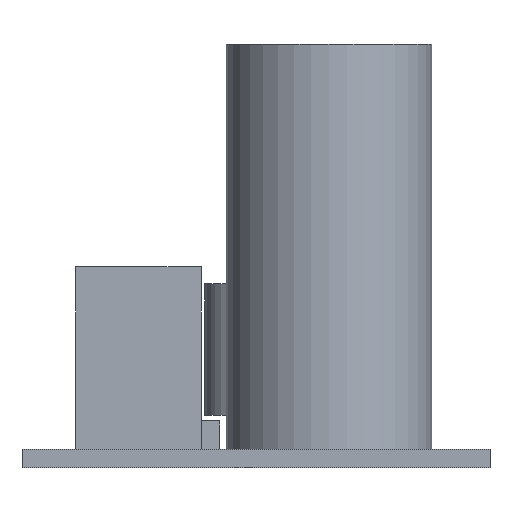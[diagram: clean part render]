
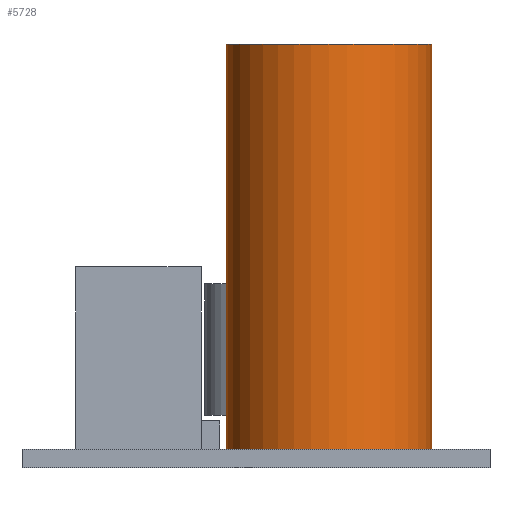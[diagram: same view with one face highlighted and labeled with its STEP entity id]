
A CAD part, front view. The second image highlights one B-rep face of the part: STEP entity #5728.
In plain terms, the highlighted cylindrical face has radius 9 mm (diameter 18 mm), a full revolution.
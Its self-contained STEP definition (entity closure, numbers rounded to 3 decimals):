
#5728 = ADVANCED_FACE('',(#5729),#5743,.T.);
#5729 = FACE_BOUND('',#5730,.F.);
#5730 = EDGE_LOOP('',(#5731,#5761,#5788,#5789));
#5731 = ORIENTED_EDGE('',*,*,#5732,.T.);
#5732 = EDGE_CURVE('',#5733,#5735,#5737,.T.);
#5733 = VERTEX_POINT('',#5734);
#5734 = CARTESIAN_POINT('',(15.899,-10.837,0.));
#5735 = VERTEX_POINT('',#5736);
#5736 = CARTESIAN_POINT('',(15.899,-10.837,35.5));
#5737 = SEAM_CURVE('',#5738,(#5742,#5754),.PCURVE_S1.);
#5738 = LINE('',#5739,#5740);
#5739 = CARTESIAN_POINT('',(15.899,-10.837,0.));
#5740 = VECTOR('',#5741,1.);
#5741 = DIRECTION('',(0.,0.,1.));
#5742 = PCURVE('',#5743,#5748);
#5743 = CYLINDRICAL_SURFACE('',#5744,9.);
#5744 = AXIS2_PLACEMENT_3D('',#5745,#5746,#5747);
#5745 = CARTESIAN_POINT('',(6.899,-10.837,0.));
#5746 = DIRECTION('',(-0.,-0.,-1.));
#5747 = DIRECTION('',(1.,0.,0.));
#5748 = DEFINITIONAL_REPRESENTATION('',(#5749),#5753);
#5749 = LINE('',#5750,#5751);
#5750 = CARTESIAN_POINT('',(-0.,0.));
#5751 = VECTOR('',#5752,1.);
#5752 = DIRECTION('',(-0.,-1.));
#5753 = ( GEOMETRIC_REPRESENTATION_CONTEXT(2) 
PARAMETRIC_REPRESENTATION_CONTEXT() REPRESENTATION_CONTEXT('2D SPACE',''
  ) );
#5754 = PCURVE('',#5743,#5755);
#5755 = DEFINITIONAL_REPRESENTATION('',(#5756),#5760);
#5756 = LINE('',#5757,#5758);
#5757 = CARTESIAN_POINT('',(-6.283,0.));
#5758 = VECTOR('',#5759,1.);
#5759 = DIRECTION('',(-0.,-1.));
#5760 = ( GEOMETRIC_REPRESENTATION_CONTEXT(2) 
PARAMETRIC_REPRESENTATION_CONTEXT() REPRESENTATION_CONTEXT('2D SPACE',''
  ) );
#5761 = ORIENTED_EDGE('',*,*,#5762,.T.);
#5762 = EDGE_CURVE('',#5735,#5735,#5763,.T.);
#5763 = SURFACE_CURVE('',#5764,(#5769,#5776),.PCURVE_S1.);
#5764 = CIRCLE('',#5765,9.);
#5765 = AXIS2_PLACEMENT_3D('',#5766,#5767,#5768);
#5766 = CARTESIAN_POINT('',(6.899,-10.837,35.5));
#5767 = DIRECTION('',(0.,0.,1.));
#5768 = DIRECTION('',(1.,0.,0.));
#5769 = PCURVE('',#5743,#5770);
#5770 = DEFINITIONAL_REPRESENTATION('',(#5771),#5775);
#5771 = LINE('',#5772,#5773);
#5772 = CARTESIAN_POINT('',(-0.,-35.5));
#5773 = VECTOR('',#5774,1.);
#5774 = DIRECTION('',(-1.,0.));
#5775 = ( GEOMETRIC_REPRESENTATION_CONTEXT(2) 
PARAMETRIC_REPRESENTATION_CONTEXT() REPRESENTATION_CONTEXT('2D SPACE',''
  ) );
#5776 = PCURVE('',#5777,#5782);
#5777 = PLANE('',#5778);
#5778 = AXIS2_PLACEMENT_3D('',#5779,#5780,#5781);
#5779 = CARTESIAN_POINT('',(6.899,-10.837,35.5));
#5780 = DIRECTION('',(0.,0.,1.));
#5781 = DIRECTION('',(1.,0.,-0.));
#5782 = DEFINITIONAL_REPRESENTATION('',(#5783),#5787);
#5783 = CIRCLE('',#5784,9.);
#5784 = AXIS2_PLACEMENT_2D('',#5785,#5786);
#5785 = CARTESIAN_POINT('',(0.,0.));
#5786 = DIRECTION('',(1.,0.));
#5787 = ( GEOMETRIC_REPRESENTATION_CONTEXT(2) 
PARAMETRIC_REPRESENTATION_CONTEXT() REPRESENTATION_CONTEXT('2D SPACE',''
  ) );
#5788 = ORIENTED_EDGE('',*,*,#5732,.F.);
#5789 = ORIENTED_EDGE('',*,*,#5790,.F.);
#5790 = EDGE_CURVE('',#5733,#5733,#5791,.T.);
#5791 = SURFACE_CURVE('',#5792,(#5797,#5804),.PCURVE_S1.);
#5792 = CIRCLE('',#5793,9.);
#5793 = AXIS2_PLACEMENT_3D('',#5794,#5795,#5796);
#5794 = CARTESIAN_POINT('',(6.899,-10.837,0.));
#5795 = DIRECTION('',(0.,0.,1.));
#5796 = DIRECTION('',(1.,0.,0.));
#5797 = PCURVE('',#5743,#5798);
#5798 = DEFINITIONAL_REPRESENTATION('',(#5799),#5803);
#5799 = LINE('',#5800,#5801);
#5800 = CARTESIAN_POINT('',(-0.,0.));
#5801 = VECTOR('',#5802,1.);
#5802 = DIRECTION('',(-1.,0.));
#5803 = ( GEOMETRIC_REPRESENTATION_CONTEXT(2) 
PARAMETRIC_REPRESENTATION_CONTEXT() REPRESENTATION_CONTEXT('2D SPACE',''
  ) );
#5804 = PCURVE('',#5805,#5810);
#5805 = PLANE('',#5806);
#5806 = AXIS2_PLACEMENT_3D('',#5807,#5808,#5809);
#5807 = CARTESIAN_POINT('',(6.899,-10.837,0.));
#5808 = DIRECTION('',(0.,0.,1.));
#5809 = DIRECTION('',(1.,0.,-0.));
#5810 = DEFINITIONAL_REPRESENTATION('',(#5811),#5815);
#5811 = CIRCLE('',#5812,9.);
#5812 = AXIS2_PLACEMENT_2D('',#5813,#5814);
#5813 = CARTESIAN_POINT('',(0.,0.));
#5814 = DIRECTION('',(1.,0.));
#5815 = ( GEOMETRIC_REPRESENTATION_CONTEXT(2) 
PARAMETRIC_REPRESENTATION_CONTEXT() REPRESENTATION_CONTEXT('2D SPACE',''
  ) );
